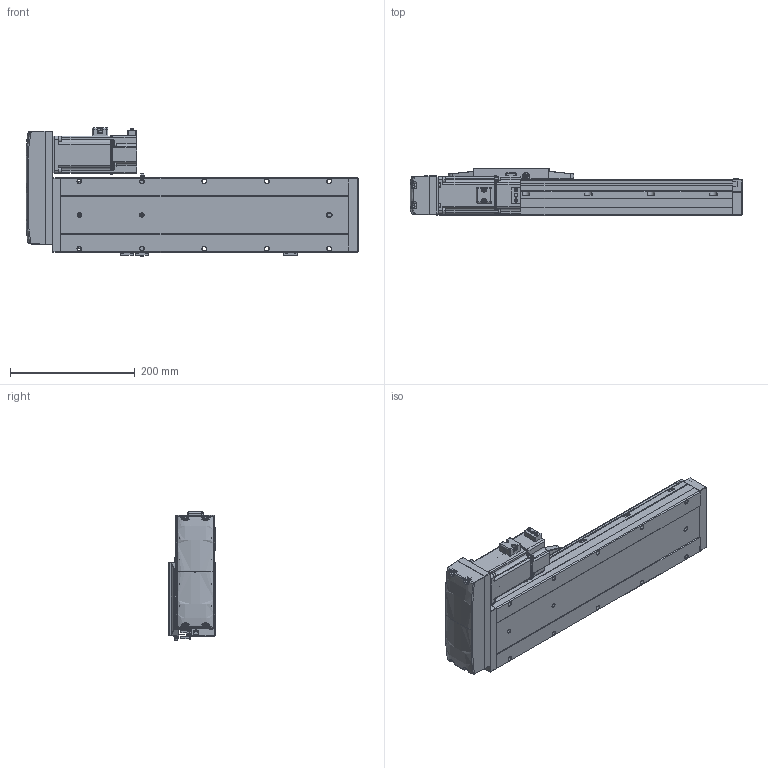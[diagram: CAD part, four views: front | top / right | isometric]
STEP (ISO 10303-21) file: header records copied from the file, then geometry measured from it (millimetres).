
FILE_DESCRIPTION (( 'STEP AP214' ), '1' );
FILE_NAME ('CTH12-L10-S250-BL-C40（简）.STEP', '2023-02-06T05:07:18', ( '' ), ( '' ), 'SwSTEP 2.0', 'SolidWorks 2018', '' );
FILE_SCHEMA (( 'AUTOMOTIVE_DESIGN' ));
Length unit declared in the file: millimetre
Products named in the file (24): M5蹟隊; CTH12-BL_body_4; CTH12賑怢郪磁; 内六角圆柱头螺钉M3-1; 400W萇儂; CTH12耜蚾裔; CTH12賑怢ㄗ潠ㄘ; 湮賑怢  裔赽-1(CTH12)賑怢; CTH400W假蚾啣; PM-Y45; CTH400W垫板（3个厚）; CTH12侧装连接板（标准）简; CTH12; 嫖萇羲壽郪磁2; CTH12-L10-S250-BL-C40（简）; 蚐郲; CTH12_body_3; CTH12底座-L461简（250行程）; 内六角圆柱头螺钉M3-2; 内六角圆柱头螺钉M3; CTH12覜茼え; hex nuts, style 1-grades ab gb_GB_FASTENER_NUT_SNAB1 M3-N; 嫖萇羲壽郪磁1; CTH嫖萇羲壽假蚾啣
Assembly tree (44 placements, depth 4):
  CTH12-L10-S250-BL-C40（简）
    CTH12底座-L461简（250行程）
    蚐郲  x2
    CTH12_body_3
    CTH12-BL_body_4
    CTH12侧装连接板（标准）简
    CTH12耜蚾裔
    CTH12賑怢郪磁
      CTH12
        湮賑怢  裔赽-1(CTH12)賑怢
        CTH12賑怢ㄗ潠ㄘ
    CTH12覜茼え
    CTH400W垫板（3个厚）
    400W萇儂
    内六角圆柱头螺钉M3  x6
    M5蹟隊  x4
    嫖萇羲壽郪磁1
      CTH嫖萇羲壽假蚾啣
      PM-Y45
      内六角圆柱头螺钉M3-2  x2
      内六角圆柱头螺钉M3-1  x2
      hex nuts, style 1-grades ab gb_GB_FASTENER_NUT_SNAB1 M3-N  x2
    嫖萇羲壽郪磁2  x2
      CTH嫖萇羲壽假蚾啣
      PM-Y45
      内六角圆柱头螺钉M3-1
      内六角圆柱头螺钉M3-2
      hex nuts, style 1-grades ab gb_GB_FASTENER_NUT_SNAB1 M3-N
    CTH400W假蚾啣
Bounding box: 531.5 x 76 x 205.26 mm (x, y, z)
Volume: 3812179.7 mm3; surface area: 518235.2 mm2
Topology: 47 solids, 48 shells, 3071 faces, 7648 edges, 4799 vertices
Faces by surface type: plane 1498, cylinder 890, cone 379, bspline 176, torus 124, sphere 4
Entity records: 100562 total; most frequent: CARTESIAN_POINT 37714, ORIENTED_EDGE 12398, DIRECTION 11681, EDGE_CURVE 6199, AXIS2_PLACEMENT_3D 4088, VERTEX_POINT 3903, VECTOR 3505, LINE 3505
